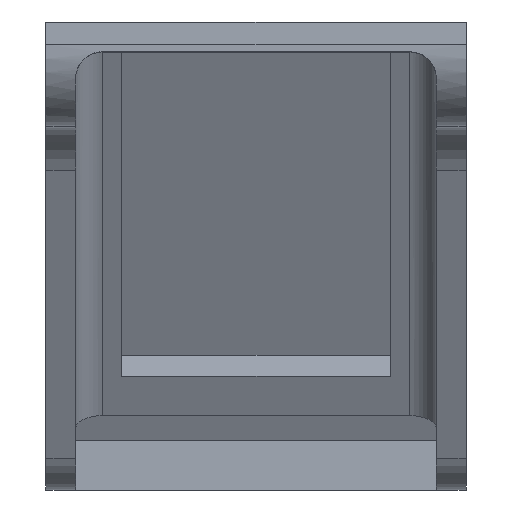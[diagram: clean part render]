
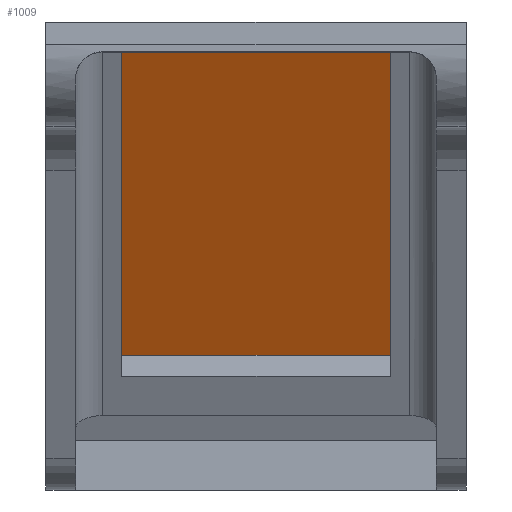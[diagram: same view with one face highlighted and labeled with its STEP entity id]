
A CAD part, top view. The second image highlights one B-rep face of the part: STEP entity #1009.
In plain terms, the highlighted planar face has unit normal (0, -0.469, 0.883).
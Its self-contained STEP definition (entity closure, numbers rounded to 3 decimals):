
#71=PLANE('',#1110);
#124=FACE_OUTER_BOUND('',#178,.T.);
#178=EDGE_LOOP('',(#904,#905,#906,#907));
#255=LINE('',#1640,#355);
#271=LINE('',#1782,#371);
#274=LINE('',#1787,#374);
#275=LINE('',#1789,#375);
#355=VECTOR('',#1293,10.);
#371=VECTOR('',#1355,10.);
#374=VECTOR('',#1360,10.);
#375=VECTOR('',#1363,10.);
#484=VERTEX_POINT('',#1637);
#485=VERTEX_POINT('',#1639);
#500=VERTEX_POINT('',#1781);
#501=VERTEX_POINT('',#1785);
#606=EDGE_CURVE('',#484,#485,#255,.T.);
#637=EDGE_CURVE('',#500,#485,#271,.T.);
#640=EDGE_CURVE('',#484,#501,#274,.T.);
#641=EDGE_CURVE('',#501,#500,#275,.T.);
#904=ORIENTED_EDGE('',*,*,#640,.T.);
#905=ORIENTED_EDGE('',*,*,#641,.T.);
#906=ORIENTED_EDGE('',*,*,#637,.T.);
#907=ORIENTED_EDGE('',*,*,#606,.F.);
#1009=ADVANCED_FACE('',(#124),#71,.T.);
#1110=AXIS2_PLACEMENT_3D('',#1794,#1370,#1371);
#1293=DIRECTION('',(1.,0.,0.));
#1355=DIRECTION('',(0.,0.883,0.469));
#1360=DIRECTION('',(0.,-0.883,-0.469));
#1363=DIRECTION('',(1.,0.,0.));
#1370=DIRECTION('center_axis',(0.,-0.469,0.883));
#1371=DIRECTION('ref_axis',(0.,-0.883,-0.469));
#1637=CARTESIAN_POINT('',(-9.,32.,1.378));
#1639=CARTESIAN_POINT('',(9.,32.,1.378));
#1640=CARTESIAN_POINT('',(-14.1,32.,1.378));
#1781=CARTESIAN_POINT('',(9.,11.692,-9.419));
#1782=CARTESIAN_POINT('',(9.,32.,1.378));
#1785=CARTESIAN_POINT('',(-9.,11.692,-9.419));
#1787=CARTESIAN_POINT('',(-9.,21.846,-4.021));
#1789=CARTESIAN_POINT('',(-2.55,11.692,-9.419));
#1794=CARTESIAN_POINT('Origin',(-14.1,32.,1.378));
